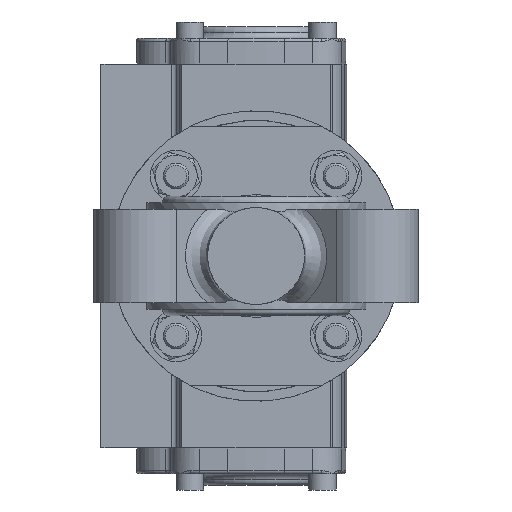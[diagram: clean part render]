
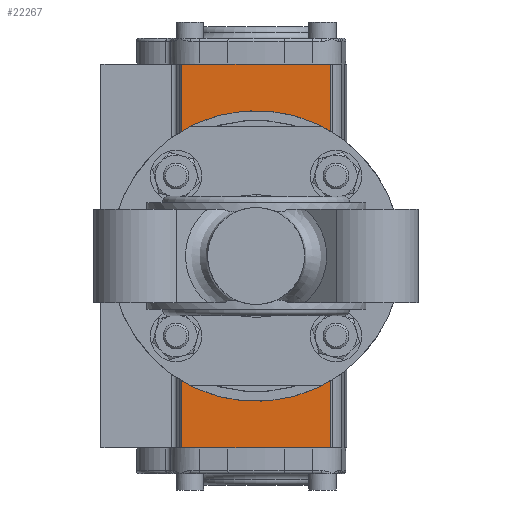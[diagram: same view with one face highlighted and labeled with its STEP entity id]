
A CAD part, front view. The second image highlights one B-rep face of the part: STEP entity #22267.
In plain terms, the highlighted planar face has unit normal (0, -1, 0).
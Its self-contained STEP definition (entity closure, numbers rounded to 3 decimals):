
#653 = CIRCLE ( 'NONE', #26553, 2.5 ) ;
#1007 = EDGE_LOOP ( 'NONE', ( #22809, #26189 ) ) ;
#1052 = CARTESIAN_POINT ( 'NONE',  ( -59.4, -34., -23. ) ) ;
#1247 = CARTESIAN_POINT ( 'NONE',  ( 17.678, -34., -20.178 ) ) ;
#1484 = EDGE_LOOP ( 'NONE', ( #7475, #22722, #17131, #14685 ) ) ;
#1540 = CIRCLE ( 'NONE', #10166, 2.5 ) ;
#1806 = LINE ( 'NONE', #18298, #18276 ) ;
#1808 = FACE_BOUND ( 'NONE', #21769, .T. ) ;
#2010 = DIRECTION ( 'NONE',  ( 0., -1., 0. ) ) ;
#2614 = EDGE_CURVE ( 'NONE', #17941, #23463, #4862, .T. ) ;
#3073 = DIRECTION ( 'NONE',  ( 0., 0., -1. ) ) ;
#3309 = EDGE_CURVE ( 'NONE', #15401, #26572, #23155, .T. ) ;
#3427 = CARTESIAN_POINT ( 'NONE',  ( -17.678, -34., 17.678 ) ) ;
#3545 = CARTESIAN_POINT ( 'NONE',  ( -17.678, -34., -20.178 ) ) ;
#3568 = CARTESIAN_POINT ( 'NONE',  ( 59.4, -34., 23. ) ) ;
#3835 = CARTESIAN_POINT ( 'NONE',  ( 17.678, -34., -17.678 ) ) ;
#4095 = LINE ( 'NONE', #12370, #17486 ) ;
#4419 = VERTEX_POINT ( 'NONE', #18968 ) ;
#4862 = CIRCLE ( 'NONE', #10913, 2.5 ) ;
#4912 = VERTEX_POINT ( 'NONE', #17571 ) ;
#5270 = EDGE_LOOP ( 'NONE', ( #23383, #23333 ) ) ;
#5368 = ORIENTED_EDGE ( 'NONE', *, *, #3309, .F. ) ;
#5663 = DIRECTION ( 'NONE',  ( 0., 0., -1. ) ) ;
#7098 = CARTESIAN_POINT ( 'NONE',  ( -59.4, -34., 23. ) ) ;
#7167 = DIRECTION ( 'NONE',  ( 0., -1., 0. ) ) ;
#7380 = VERTEX_POINT ( 'NONE', #16438 ) ;
#7475 = ORIENTED_EDGE ( 'NONE', *, *, #19531, .T. ) ;
#7494 = FACE_OUTER_BOUND ( 'NONE', #1484, .T. ) ;
#8215 = DIRECTION ( 'NONE',  ( 0., -1., 0. ) ) ;
#8516 = LINE ( 'NONE', #21340, #20098 ) ;
#8596 = EDGE_CURVE ( 'NONE', #4912, #19771, #1806, .T. ) ;
#9154 = CARTESIAN_POINT ( 'NONE',  ( 17.678, -34., 17.678 ) ) ;
#9288 = CIRCLE ( 'NONE', #11047, 15. ) ;
#9513 = DIRECTION ( 'NONE',  ( 0., -1., 0. ) ) ;
#9614 = CARTESIAN_POINT ( 'NONE',  ( -17.678, -34., 17.678 ) ) ;
#9930 = CIRCLE ( 'NONE', #25032, 2.5 ) ;
#10021 = EDGE_CURVE ( 'NONE', #13320, #7380, #653, .T. ) ;
#10062 = DIRECTION ( 'NONE',  ( 0., 0., -1. ) ) ;
#10166 = AXIS2_PLACEMENT_3D ( 'NONE', #19975, #25903, #3073 ) ;
#10274 = DIRECTION ( 'NONE',  ( 0., 0., -1. ) ) ;
#10471 = CARTESIAN_POINT ( 'NONE',  ( 59.4, -34., -23. ) ) ;
#10681 = CARTESIAN_POINT ( 'NONE',  ( -17.678, -34., -15.178 ) ) ;
#10760 = EDGE_CURVE ( 'NONE', #23463, #17941, #26507, .T. ) ;
#10913 = AXIS2_PLACEMENT_3D ( 'NONE', #9154, #11214, #23225 ) ;
#11047 = AXIS2_PLACEMENT_3D ( 'NONE', #25382, #15096, #21326 ) ;
#11065 = DIRECTION ( 'NONE',  ( 0., -1., 0. ) ) ;
#11100 = EDGE_CURVE ( 'NONE', #23398, #4419, #21831, .T. ) ;
#11214 = DIRECTION ( 'NONE',  ( 0., -1., 0. ) ) ;
#11276 = EDGE_CURVE ( 'NONE', #4419, #23398, #9288, .T. ) ;
#11383 = EDGE_CURVE ( 'NONE', #13254, #12297, #1540, .T. ) ;
#11458 = AXIS2_PLACEMENT_3D ( 'NONE', #3427, #9513, #13948 ) ;
#11588 = FACE_BOUND ( 'NONE', #5270, .T. ) ;
#11659 = DIRECTION ( 'NONE',  ( 0., -1., 0. ) ) ;
#11707 = DIRECTION ( 'NONE',  ( 0., 0., 1. ) ) ;
#11826 = DIRECTION ( 'NONE',  ( 0., 1., 0. ) ) ;
#12190 = EDGE_CURVE ( 'NONE', #26572, #15401, #23569, .T. ) ;
#12284 = CIRCLE ( 'NONE', #11458, 2.5 ) ;
#12288 = CARTESIAN_POINT ( 'NONE',  ( 17.678, -34., -17.678 ) ) ;
#12297 = VERTEX_POINT ( 'NONE', #10681 ) ;
#12370 = CARTESIAN_POINT ( 'NONE',  ( 59.4, -34., 23. ) ) ;
#12739 = EDGE_LOOP ( 'NONE', ( #5368, #15483 ) ) ;
#13184 = AXIS2_PLACEMENT_3D ( 'NONE', #15125, #7167, #19204 ) ;
#13254 = VERTEX_POINT ( 'NONE', #3545 ) ;
#13320 = VERTEX_POINT ( 'NONE', #16108 ) ;
#13948 = DIRECTION ( 'NONE',  ( 0., 0., -1. ) ) ;
#14084 = CARTESIAN_POINT ( 'NONE',  ( -59.4, -34., 23. ) ) ;
#14169 = DIRECTION ( 'NONE',  ( 0., 0., 1. ) ) ;
#14291 = ORIENTED_EDGE ( 'NONE', *, *, #15547, .F. ) ;
#14685 = ORIENTED_EDGE ( 'NONE', *, *, #22327, .T. ) ;
#15096 = DIRECTION ( 'NONE',  ( 0., -1., 0. ) ) ;
#15125 = CARTESIAN_POINT ( 'NONE',  ( 17.678, -34., 17.678 ) ) ;
#15144 = VECTOR ( 'NONE', #21848, 1000. ) ;
#15401 = VERTEX_POINT ( 'NONE', #1247 ) ;
#15483 = ORIENTED_EDGE ( 'NONE', *, *, #12190, .F. ) ;
#15547 = EDGE_CURVE ( 'NONE', #12297, #13254, #9930, .T. ) ;
#15822 = EDGE_LOOP ( 'NONE', ( #20782, #24417 ) ) ;
#16011 = FACE_BOUND ( 'NONE', #15822, .T. ) ;
#16108 = CARTESIAN_POINT ( 'NONE',  ( -17.678, -34., 15.178 ) ) ;
#16329 = CARTESIAN_POINT ( 'NONE',  ( 17.678, -34., 15.178 ) ) ;
#16438 = CARTESIAN_POINT ( 'NONE',  ( -17.678, -34., 20.178 ) ) ;
#16947 = DIRECTION ( 'NONE',  ( -1., 0., 0. ) ) ;
#16997 = DIRECTION ( 'NONE',  ( 0., 0., -1. ) ) ;
#17121 = AXIS2_PLACEMENT_3D ( 'NONE', #3835, #26662, #10062 ) ;
#17131 = ORIENTED_EDGE ( 'NONE', *, *, #8596, .F. ) ;
#17486 = VECTOR ( 'NONE', #16947, 1000. ) ;
#17571 = CARTESIAN_POINT ( 'NONE',  ( 59.4, -34., 23. ) ) ;
#17941 = VERTEX_POINT ( 'NONE', #16329 ) ;
#18276 = VECTOR ( 'NONE', #26517, 1000. ) ;
#18298 = CARTESIAN_POINT ( 'NONE',  ( 59.4, -34., 23. ) ) ;
#18501 = CARTESIAN_POINT ( 'NONE',  ( 0., -34., 0. ) ) ;
#18968 = CARTESIAN_POINT ( 'NONE',  ( 0., -34., -15. ) ) ;
#19041 = CARTESIAN_POINT ( 'NONE',  ( -17.678, -34., -17.678 ) ) ;
#19204 = DIRECTION ( 'NONE',  ( 0., 0., -1. ) ) ;
#19390 = CARTESIAN_POINT ( 'NONE',  ( 17.678, -34., 20.178 ) ) ;
#19531 = EDGE_CURVE ( 'NONE', #21244, #20780, #25610, .T. ) ;
#19771 = VERTEX_POINT ( 'NONE', #10471 ) ;
#19826 = PLANE ( 'NONE',  #22232 ) ;
#19975 = CARTESIAN_POINT ( 'NONE',  ( -17.678, -34., -17.678 ) ) ;
#20098 = VECTOR ( 'NONE', #24991, 1000. ) ;
#20780 = VERTEX_POINT ( 'NONE', #1052 ) ;
#20782 = ORIENTED_EDGE ( 'NONE', *, *, #2614, .F. ) ;
#21244 = VERTEX_POINT ( 'NONE', #14084 ) ;
#21326 = DIRECTION ( 'NONE',  ( 0., 0., 1. ) ) ;
#21331 = ORIENTED_EDGE ( 'NONE', *, *, #11383, .F. ) ;
#21340 = CARTESIAN_POINT ( 'NONE',  ( 59.4, -34., -23. ) ) ;
#21769 = EDGE_LOOP ( 'NONE', ( #21331, #14291 ) ) ;
#21831 = CIRCLE ( 'NONE', #22256, 15. ) ;
#21848 = DIRECTION ( 'NONE',  ( 0., 0., -1. ) ) ;
#21986 = CARTESIAN_POINT ( 'NONE',  ( 0., -34., 15. ) ) ;
#22102 = FACE_BOUND ( 'NONE', #12739, .T. ) ;
#22232 = AXIS2_PLACEMENT_3D ( 'NONE', #3568, #11826, #11707 ) ;
#22256 = AXIS2_PLACEMENT_3D ( 'NONE', #18501, #8215, #14169 ) ;
#22267 = ADVANCED_FACE ( 'NONE', ( #22102, #1808, #11588, #16011, #26392, #7494 ), #19826, .F. ) ;
#22327 = EDGE_CURVE ( 'NONE', #4912, #21244, #4095, .T. ) ;
#22722 = ORIENTED_EDGE ( 'NONE', *, *, #22747, .F. ) ;
#22747 = EDGE_CURVE ( 'NONE', #19771, #20780, #8516, .T. ) ;
#22809 = ORIENTED_EDGE ( 'NONE', *, *, #11100, .F. ) ;
#23155 = CIRCLE ( 'NONE', #17121, 2.5 ) ;
#23225 = DIRECTION ( 'NONE',  ( 0., 0., -1. ) ) ;
#23333 = ORIENTED_EDGE ( 'NONE', *, *, #26093, .F. ) ;
#23383 = ORIENTED_EDGE ( 'NONE', *, *, #10021, .F. ) ;
#23398 = VERTEX_POINT ( 'NONE', #21986 ) ;
#23463 = VERTEX_POINT ( 'NONE', #19390 ) ;
#23569 = CIRCLE ( 'NONE', #26576, 2.5 ) ;
#24417 = ORIENTED_EDGE ( 'NONE', *, *, #10760, .F. ) ;
#24991 = DIRECTION ( 'NONE',  ( -1., 0., 0. ) ) ;
#25032 = AXIS2_PLACEMENT_3D ( 'NONE', #19041, #11065, #16997 ) ;
#25382 = CARTESIAN_POINT ( 'NONE',  ( 0., -34., 0. ) ) ;
#25610 = LINE ( 'NONE', #7098, #15144 ) ;
#25662 = CARTESIAN_POINT ( 'NONE',  ( 17.678, -34., -15.178 ) ) ;
#25903 = DIRECTION ( 'NONE',  ( 0., -1., 0. ) ) ;
#26093 = EDGE_CURVE ( 'NONE', #7380, #13320, #12284, .T. ) ;
#26189 = ORIENTED_EDGE ( 'NONE', *, *, #11276, .F. ) ;
#26392 = FACE_BOUND ( 'NONE', #1007, .T. ) ;
#26507 = CIRCLE ( 'NONE', #13184, 2.5 ) ;
#26517 = DIRECTION ( 'NONE',  ( 0., 0., -1. ) ) ;
#26553 = AXIS2_PLACEMENT_3D ( 'NONE', #9614, #11659, #5663 ) ;
#26572 = VERTEX_POINT ( 'NONE', #25662 ) ;
#26576 = AXIS2_PLACEMENT_3D ( 'NONE', #12288, #2010, #10274 ) ;
#26662 = DIRECTION ( 'NONE',  ( 0., -1., 0. ) ) ;
